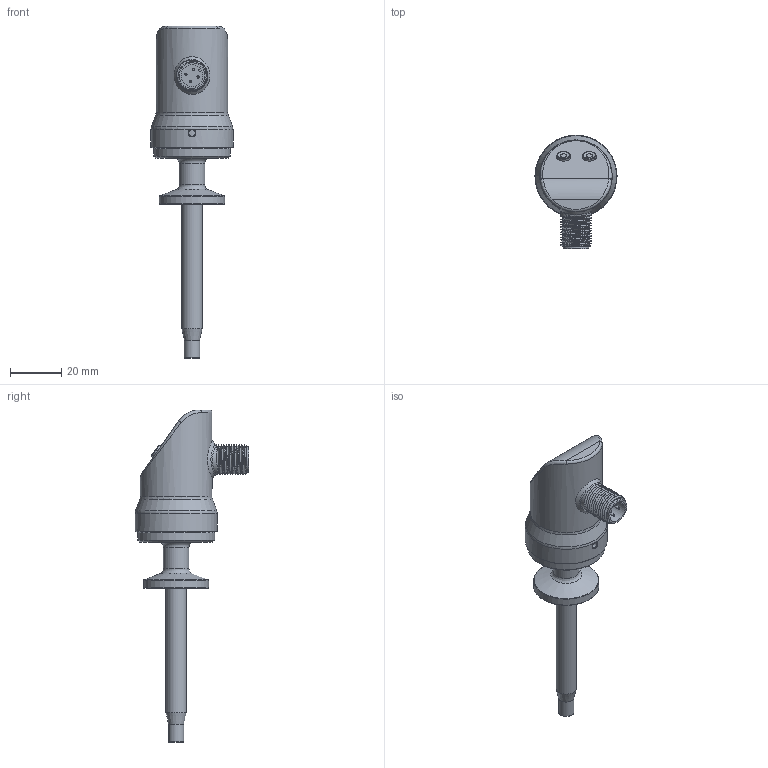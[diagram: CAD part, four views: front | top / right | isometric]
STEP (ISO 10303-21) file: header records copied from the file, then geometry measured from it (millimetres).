
FILE_DESCRIPTION( (''), '2;1');
FILE_NAME( 'QSKE_H25_L60_tri-clamp.step', '2026-08-14T11:48:50+08:00', (''), (''), '', '', '');
FILE_SCHEMA (('AUTOMOTIVE_DESIGN { 1 0 10303 214 3 1 1 1 }'));
Length unit declared in the file: millimetre
Products named in the file (1): QSKE H25_L60_tri-clamp
Bounding box: 32 x 44.35 x 129.5 mm (x, y, z)
Volume: 22551.2 mm3; surface area: 16725.3 mm2
Topology: 9 solids, 10 shells, 212 faces, 507 edges, 334 vertices
Faces by surface type: plane 93, cylinder 47, torus 31, cone 28, bspline 11, extrusion 2
Full cylindrical faces by diameter (mm): 0.9 x8, 2 x4, 2.5 x1, 5.2 x2, 5.6 x2, 6 x1, 6.8 x1, 8 x1, 9.8 x2, 10 x2, 25.4 x1, 27 x1, 28 x1, 30 x1, 32 x1
Entity records: 8491 total; most frequent: CARTESIAN_POINT 3890, DIRECTION 916, ORIENTED_EDGE 804, EDGE_CURVE 402, AXIS2_PLACEMENT_3D 379, EDGE_LOOP 312, VERTEX_POINT 302, ADVANCED_FACE 212
